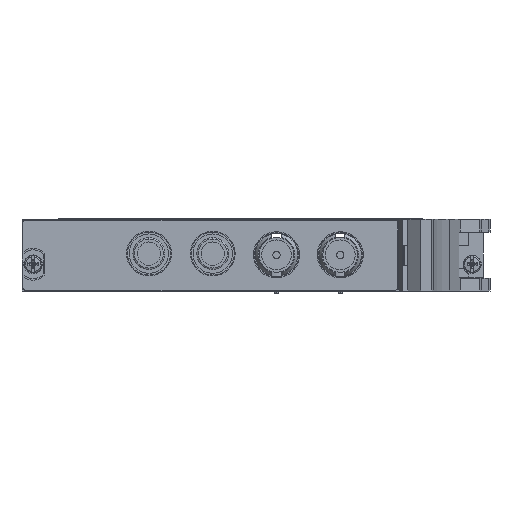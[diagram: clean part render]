
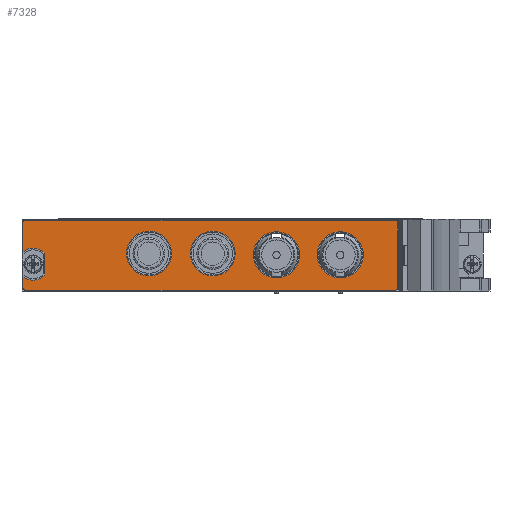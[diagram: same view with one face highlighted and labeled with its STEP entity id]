
A CAD part, left-side view. The second image highlights one B-rep face of the part: STEP entity #7328.
In plain terms, the highlighted planar face has unit normal (-1, 0, 0).
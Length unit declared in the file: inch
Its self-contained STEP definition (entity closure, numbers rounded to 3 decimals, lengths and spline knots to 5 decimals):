
#753=CARTESIAN_POINT('',(-0.215,0.53465,0.665));
#754=DIRECTION('',(-1.,0.,0.));
#755=DIRECTION('',(0.,0.,1.));
#756=AXIS2_PLACEMENT_3D('',#753,#754,#755);
#758=DIRECTION('',(0.,1.,0.));
#759=VECTOR('',#758,4.07);
#760=CARTESIAN_POINT('',(-0.215,-3.53535,0.685));
#761=LINE('',#760,#759);
#762=CARTESIAN_POINT('',(-0.215,-3.53535,0.665));
#763=DIRECTION('',(-1.,0.,0.));
#764=DIRECTION('',(0.,-1.,0.));
#765=AXIS2_PLACEMENT_3D('',#762,#763,#764);
#767=DIRECTION('',(0.,0.,1.));
#768=VECTOR('',#767,0.728);
#769=CARTESIAN_POINT('',(-0.215,-3.55535,-0.063));
#770=LINE('',#769,#768);
#771=CARTESIAN_POINT('',(-0.215,-3.53535,-0.063));
#772=DIRECTION('',(-1.,0.,0.));
#773=DIRECTION('',(0.,0.,-1.));
#774=AXIS2_PLACEMENT_3D('',#771,#772,#773);
#776=DIRECTION('',(0.,-1.,0.));
#777=VECTOR('',#776,4.07);
#778=CARTESIAN_POINT('',(-0.215,0.53465,-0.083));
#779=LINE('',#778,#777);
#780=CARTESIAN_POINT('',(-0.215,0.53465,-0.063));
#781=DIRECTION('',(-1.,0.,0.));
#782=DIRECTION('',(0.,1.,0.));
#783=AXIS2_PLACEMENT_3D('',#780,#781,#782);
#785=DIRECTION('',(0.,0.,-1.));
#786=VECTOR('',#785,0.12953);
#787=CARTESIAN_POINT('',(-0.215,0.55465,0.06653));
#788=LINE('',#787,#786);
#789=CARTESIAN_POINT('',(-0.215,0.44265,0.201));
#790=DIRECTION('',(1.,0.,0.));
#791=DIRECTION('',(0.,-0.737,-0.676));
#792=AXIS2_PLACEMENT_3D('',#789,#790,#791);
#794=DIRECTION('',(0.,0.,-1.));
#795=VECTOR('',#794,0.23651);
#796=CARTESIAN_POINT('',(-0.215,0.31365,0.31925));
#797=LINE('',#796,#795);
#798=CARTESIAN_POINT('',(-0.215,0.44265,0.201));
#799=DIRECTION('',(1.,0.,0.));
#800=DIRECTION('',(0.,0.64,0.768));
#801=AXIS2_PLACEMENT_3D('',#798,#799,#800);
#803=DIRECTION('',(0.,0.,-1.));
#804=VECTOR('',#803,0.32953);
#805=CARTESIAN_POINT('',(-0.215,0.55465,0.665));
#806=LINE('',#805,#804);
#807=CARTESIAN_POINT('',(-0.215,-0.82935,0.318));
#808=DIRECTION('',(-1.,0.,0.));
#809=DIRECTION('',(0.,0.,1.));
#810=AXIS2_PLACEMENT_3D('',#807,#808,#809);
#812=CARTESIAN_POINT('',(-0.215,-0.82935,0.318));
#813=DIRECTION('',(-1.,0.,0.));
#814=DIRECTION('',(0.,0.,-1.));
#815=AXIS2_PLACEMENT_3D('',#812,#813,#814);
#817=CARTESIAN_POINT('',(-0.215,-1.52935,0.318));
#818=DIRECTION('',(-1.,0.,0.));
#819=DIRECTION('',(0.,0.,1.));
#820=AXIS2_PLACEMENT_3D('',#817,#818,#819);
#822=CARTESIAN_POINT('',(-0.215,-1.52935,0.318));
#823=DIRECTION('',(-1.,0.,0.));
#824=DIRECTION('',(0.,0.,-1.));
#825=AXIS2_PLACEMENT_3D('',#822,#823,#824);
#827=CARTESIAN_POINT('',(-0.215,-2.22935,0.304));
#828=DIRECTION('',(-1.,0.,0.));
#829=DIRECTION('',(0.,0.,1.));
#830=AXIS2_PLACEMENT_3D('',#827,#828,#829);
#832=CARTESIAN_POINT('',(-0.215,-2.22935,0.304));
#833=DIRECTION('',(-1.,0.,0.));
#834=DIRECTION('',(0.,0.,-1.));
#835=AXIS2_PLACEMENT_3D('',#832,#833,#834);
#837=CARTESIAN_POINT('',(-0.215,-2.92935,0.304));
#838=DIRECTION('',(-1.,0.,0.));
#839=DIRECTION('',(0.,0.,1.));
#840=AXIS2_PLACEMENT_3D('',#837,#838,#839);
#842=CARTESIAN_POINT('',(-0.215,-2.92935,0.304));
#843=DIRECTION('',(-1.,0.,0.));
#844=DIRECTION('',(0.,0.,-1.));
#845=AXIS2_PLACEMENT_3D('',#842,#843,#844);
#5726=CARTESIAN_POINT('',(-0.215,0.53465,0.685));
#5727=CARTESIAN_POINT('',(-0.215,0.55465,0.665));
#5728=VERTEX_POINT('',#5726);
#5729=VERTEX_POINT('',#5727);
#5730=CARTESIAN_POINT('',(-0.215,0.55465,0.33547));
#5731=VERTEX_POINT('',#5730);
#5732=CARTESIAN_POINT('',(-0.215,0.31365,0.31925));
#5733=VERTEX_POINT('',#5732);
#5734=CARTESIAN_POINT('',(-0.215,0.31365,0.08275));
#5735=VERTEX_POINT('',#5734);
#5736=CARTESIAN_POINT('',(-0.215,0.55465,0.06653));
#5737=VERTEX_POINT('',#5736);
#5738=CARTESIAN_POINT('',(-0.215,0.55465,-0.063));
#5739=VERTEX_POINT('',#5738);
#5740=CARTESIAN_POINT('',(-0.215,0.53465,-0.083));
#5741=VERTEX_POINT('',#5740);
#5742=CARTESIAN_POINT('',(-0.215,-3.53535,-0.083));
#5743=VERTEX_POINT('',#5742);
#5744=CARTESIAN_POINT('',(-0.215,-3.55535,-0.063));
#5745=VERTEX_POINT('',#5744);
#5746=CARTESIAN_POINT('',(-0.215,-3.55535,0.665));
#5747=VERTEX_POINT('',#5746);
#5748=CARTESIAN_POINT('',(-0.215,-3.53535,0.685));
#5749=VERTEX_POINT('',#5748);
#5750=CARTESIAN_POINT('',(-0.215,-0.82935,0.564));
#5751=CARTESIAN_POINT('',(-0.215,-0.82935,0.072));
#5752=VERTEX_POINT('',#5750);
#5753=VERTEX_POINT('',#5751);
#5754=CARTESIAN_POINT('',(-0.215,-1.52935,0.564));
#5755=CARTESIAN_POINT('',(-0.215,-1.52935,0.072));
#5756=VERTEX_POINT('',#5754);
#5757=VERTEX_POINT('',#5755);
#5758=CARTESIAN_POINT('',(-0.215,-2.22935,0.557));
#5759=CARTESIAN_POINT('',(-0.215,-2.22935,0.051));
#5760=VERTEX_POINT('',#5758);
#5761=VERTEX_POINT('',#5759);
#5762=CARTESIAN_POINT('',(-0.215,-2.92935,0.557));
#5763=CARTESIAN_POINT('',(-0.215,-2.92935,0.051));
#5764=VERTEX_POINT('',#5762);
#5765=VERTEX_POINT('',#5763);
#7275=CARTESIAN_POINT('',(-0.215,0.44265,0.201));
#7276=DIRECTION('',(-1.,0.,0.));
#7277=DIRECTION('',(0.,0.,1.));
#7278=AXIS2_PLACEMENT_3D('',#7275,#7276,#7277);
#7279=PLANE('',#7278);
#7281=ORIENTED_EDGE('',*,*,#7280,.F.);
#7283=ORIENTED_EDGE('',*,*,#7282,.F.);
#7285=ORIENTED_EDGE('',*,*,#7284,.F.);
#7287=ORIENTED_EDGE('',*,*,#7286,.F.);
#7289=ORIENTED_EDGE('',*,*,#7288,.F.);
#7291=ORIENTED_EDGE('',*,*,#7290,.F.);
#7293=ORIENTED_EDGE('',*,*,#7292,.F.);
#7295=ORIENTED_EDGE('',*,*,#7294,.F.);
#7297=ORIENTED_EDGE('',*,*,#7296,.F.);
#7299=ORIENTED_EDGE('',*,*,#7298,.F.);
#7301=ORIENTED_EDGE('',*,*,#7300,.F.);
#7303=ORIENTED_EDGE('',*,*,#7302,.F.);
#7304=EDGE_LOOP('',(#7281,#7283,#7285,#7287,#7289,#7291,#7293,#7295,#7297,#7299,
#7301,#7303));
#7305=FACE_OUTER_BOUND('',#7304,.F.);
#7307=ORIENTED_EDGE('',*,*,#7306,.T.);
#7309=ORIENTED_EDGE('',*,*,#7308,.T.);
#7310=EDGE_LOOP('',(#7307,#7309));
#7311=FACE_BOUND('',#7310,.F.);
#7313=ORIENTED_EDGE('',*,*,#7312,.T.);
#7315=ORIENTED_EDGE('',*,*,#7314,.T.);
#7316=EDGE_LOOP('',(#7313,#7315));
#7317=FACE_BOUND('',#7316,.F.);
#7319=ORIENTED_EDGE('',*,*,#7318,.T.);
#7321=ORIENTED_EDGE('',*,*,#7320,.T.);
#7322=EDGE_LOOP('',(#7319,#7321));
#7323=FACE_BOUND('',#7322,.F.);
#7324=ORIENTED_EDGE('',*,*,#7255,.T.);
#7325=ORIENTED_EDGE('',*,*,#7269,.T.);
#7326=EDGE_LOOP('',(#7324,#7325));
#7327=FACE_BOUND('',#7326,.F.);
#7328=ADVANCED_FACE('',(#7305,#7311,#7317,#7323,#7327),#7279,.T.);
#757=CIRCLE('',#756,0.02);
#766=CIRCLE('',#765,0.02);
#775=CIRCLE('',#774,0.02);
#784=CIRCLE('',#783,0.02);
#793=CIRCLE('',#792,0.175);
#802=CIRCLE('',#801,0.175);
#811=CIRCLE('',#810,0.246);
#816=CIRCLE('',#815,0.246);
#821=CIRCLE('',#820,0.246);
#826=CIRCLE('',#825,0.246);
#831=CIRCLE('',#830,0.253);
#836=CIRCLE('',#835,0.253);
#841=CIRCLE('',#840,0.253);
#846=CIRCLE('',#845,0.253);
#7255=EDGE_CURVE('',#5764,#5765,#841,.T.);
#7269=EDGE_CURVE('',#5765,#5764,#846,.T.);
#7280=EDGE_CURVE('',#5728,#5729,#757,.T.);
#7282=EDGE_CURVE('',#5749,#5728,#761,.T.);
#7284=EDGE_CURVE('',#5747,#5749,#766,.T.);
#7286=EDGE_CURVE('',#5745,#5747,#770,.T.);
#7288=EDGE_CURVE('',#5743,#5745,#775,.T.);
#7290=EDGE_CURVE('',#5741,#5743,#779,.T.);
#7292=EDGE_CURVE('',#5739,#5741,#784,.T.);
#7294=EDGE_CURVE('',#5737,#5739,#788,.T.);
#7296=EDGE_CURVE('',#5735,#5737,#793,.T.);
#7298=EDGE_CURVE('',#5733,#5735,#797,.T.);
#7300=EDGE_CURVE('',#5731,#5733,#802,.T.);
#7302=EDGE_CURVE('',#5729,#5731,#806,.T.);
#7306=EDGE_CURVE('',#5752,#5753,#811,.T.);
#7308=EDGE_CURVE('',#5753,#5752,#816,.T.);
#7312=EDGE_CURVE('',#5756,#5757,#821,.T.);
#7314=EDGE_CURVE('',#5757,#5756,#826,.T.);
#7318=EDGE_CURVE('',#5760,#5761,#831,.T.);
#7320=EDGE_CURVE('',#5761,#5760,#836,.T.);
